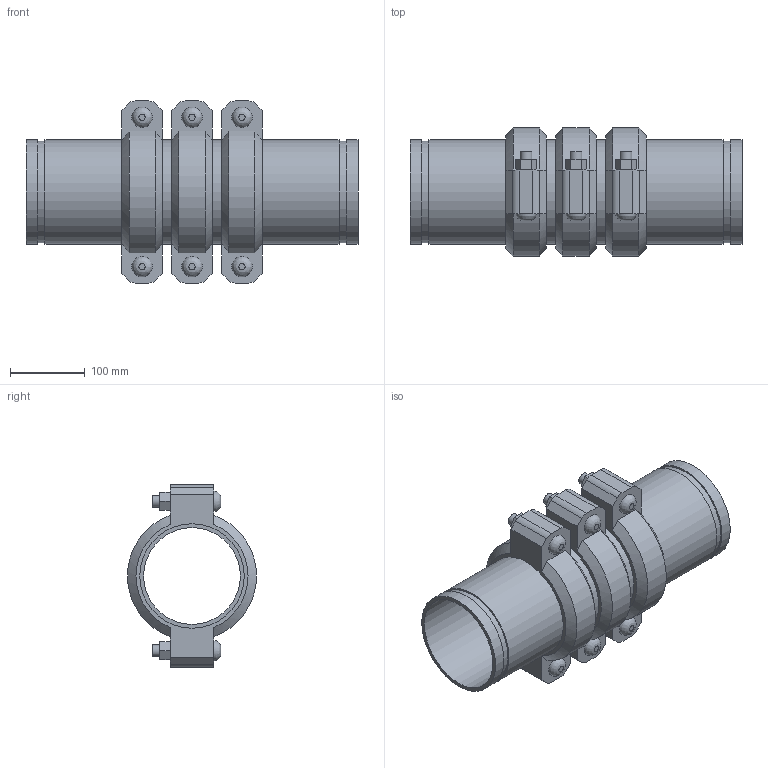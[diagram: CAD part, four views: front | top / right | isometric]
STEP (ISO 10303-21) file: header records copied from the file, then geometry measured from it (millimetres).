
FILE_DESCRIPTION(/* description */ ('VIC EXPANSION JOINT 3 COUPLINGS EXPANDED STYLE 155 (OGS)','CAx-IF Rec.Pracs.---Representation and Presentation of Product Manufacturing Information (PMI)---4.0---2014-10-13'),/* implementation_level */ '2;1');
FILE_NAME(/* name */ 'C:\Users\kkamble\AppData\Roaming\Autodesk\ApplicationPlugins\Victaulic.Temp\A258\Victaulic_IPS_Expansion Joint_Expanded_3 Couplings_Style 155 (OGS)_05.0 (139.7) (125).stp',/* time_stamp */ '2021-06-26T23:58:41+02:00',/* author */ ('kkamble'),/* organization */ ('Victaulic'),/* preprocessor_version */ 'ST-DEVELOPER v17.2',/* originating_system */ 'Autodesk Inventor 2019',/* authorisation */ '');
FILE_SCHEMA (('AP242_MANAGED_MODEL_BASED_3D_ENGINEERING_MIM_LF { 1 0 10303 442 1 1 4 }'));
Length unit declared in the file: inch
Products named in the file (4): 155-05.0 (139.7); Nipple-05.0 (139.7); Nipple-05.0 (139.7)_1; 075-05.0 (139.7)
Assembly tree (7 placements, depth 2):
  155-05.0 (139.7)
    Nipple-05.0 (139.7)  x2
    Nipple-05.0 (139.7)_1  x2
    075-05.0 (139.7)  x3
Bounding box: 443.99 x 172.14 x 243.59 mm (x, y, z)
Volume: 2781844.3 mm3; surface area: 692934.7 mm2
Topology: 7 solids, 13 shells, 219 faces, 519 edges, 366 vertices
Faces by surface type: plane 132, cylinder 69, cone 12, bspline 6
Full cylindrical faces by diameter (mm): 15.875 x12, 17.424 x6, 129.388 x4, 133.35 x3, 135.484 x8, 139.7 x18
Entity records: 2769 total; most frequent: CARTESIAN_POINT 491, DIRECTION 457, ORIENTED_EDGE 386, EDGE_CURVE 193, AXIS2_PLACEMENT_3D 182, VERTEX_POINT 138, EDGE_LOOP 107, LINE 93
